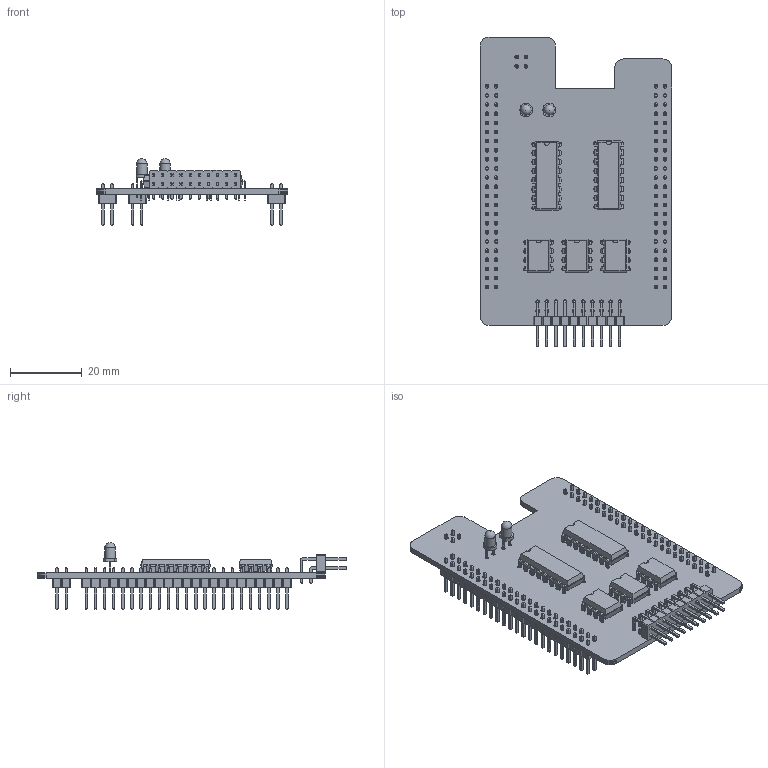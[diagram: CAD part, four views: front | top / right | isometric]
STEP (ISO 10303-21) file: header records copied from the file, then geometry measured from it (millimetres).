
FILE_DESCRIPTION(('KiCad electronic assembly'),'2;1');
FILE_NAME('Quron_Cape.step','2024-12-03T16:38:56',('Pcbnew'),('Kicad'), 'Open CASCADE STEP processor 7.5','KiCad to STEP converter','Unknown' );
FILE_SCHEMA(('AUTOMOTIVE_DESIGN { 1 0 10303 214 1 1 1 1 }'));
Length unit declared in the file: millimetre
Products named in the file (14): Quron_Cape 1; DIP-8_W7.62mm; SOLID; DIP-16_W7.62mm; PinHeader_2x10_P2.54mm_Horizontal; LED_D3.0mm_Clear; PinHeader_2x02_P2.54mm_Vertical; PinHeader_2x23_P2.54mm_Vertical; PCB
Assembly tree (18 placements, depth 3):
  Quron_Cape 1
    DIP-8_W7.62mm  x3
      SOLID
    DIP-16_W7.62mm  x2
      SOLID
    PinHeader_2x10_P2.54mm_Horizontal
      SOLID
    LED_D3.0mm_Clear  x2
      SOLID
    PinHeader_2x02_P2.54mm_Vertical
      SOLID
    PinHeader_2x23_P2.54mm_Vertical  x2
      SOLID
    PCB
Bounding box: 53.34 x 86.24 x 18.52 mm (x, y, z)
Volume: 9793.7 mm3; surface area: 16381.6 mm2
Topology: 12 solids, 12 shells, 3814 faces, 9458 edges, 5904 vertices
Faces by surface type: plane 3379, cylinder 317, bspline 116, sphere 2
Full cylindrical faces by diameter (mm): 0.8 x56, 0.9 x4, 1 x116, 2.9 x2
Entity records: 155842 total; most frequent: CARTESIAN_POINT 27384, DIRECTION 21161, LINE 15620, VECTOR 15620, ORIENTED_EDGE 11196, PCURVE 11196, DEFINITIONAL_REPRESENTATION 11196, EDGE_CURVE 5598
